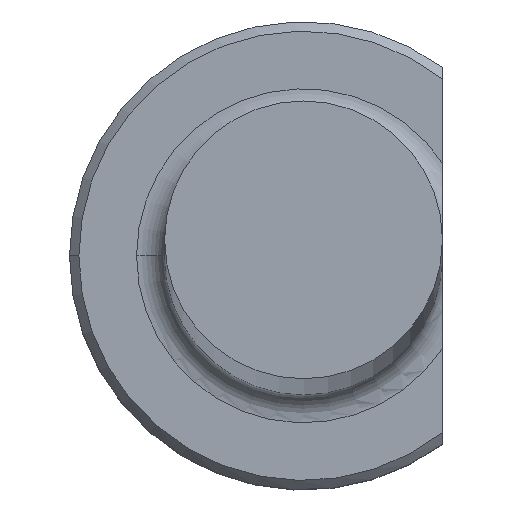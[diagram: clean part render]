
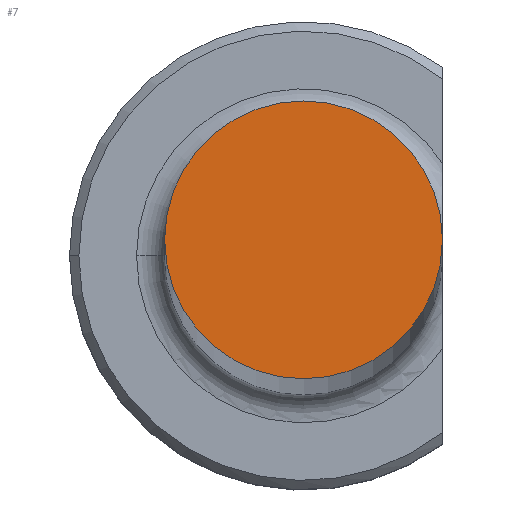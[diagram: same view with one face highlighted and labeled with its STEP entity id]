
A CAD part, top view. The second image highlights one B-rep face of the part: STEP entity #7.
In plain terms, the highlighted planar face has unit normal (0, 0, 1).
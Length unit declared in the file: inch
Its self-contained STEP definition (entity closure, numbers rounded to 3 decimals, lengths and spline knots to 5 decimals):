
#7 = ADVANCED_FACE ( 'NONE', ( #45 ), #438, .T. ) ;
#11 = EDGE_LOOP ( 'NONE', ( #25, #162 ) ) ;
#25 = ORIENTED_EDGE ( 'NONE', *, *, #329, .F. ) ;
#45 = FACE_OUTER_BOUND ( 'NONE', #11, .T. ) ;
#66 = DIRECTION ( 'NONE',  ( 0., 0., -1. ) ) ;
#134 = CIRCLE ( 'NONE', #341, 0.1484 ) ;
#162 = ORIENTED_EDGE ( 'NONE', *, *, #344, .F. ) ;
#171 = CARTESIAN_POINT ( 'NONE',  ( -0.1484, 0., 10. ) ) ;
#184 = CARTESIAN_POINT ( 'NONE',  ( 0., 0.1484, 10. ) ) ;
#189 = DIRECTION ( 'NONE',  ( 1., 0., 0. ) ) ;
#202 = CARTESIAN_POINT ( 'NONE',  ( 0., 0., 10. ) ) ;
#211 = DIRECTION ( 'NONE',  ( -1., 0., 0. ) ) ;
#222 = DIRECTION ( 'NONE',  ( 0., 0., 1. ) ) ;
#236 = CIRCLE ( 'NONE', #274, 0.1484 ) ;
#270 = VERTEX_POINT ( 'NONE', #171 ) ;
#274 = AXIS2_PLACEMENT_3D ( 'NONE', #202, #391, #346 ) ;
#329 = EDGE_CURVE ( 'NONE', #270, #394, #236, .T. ) ;
#341 = AXIS2_PLACEMENT_3D ( 'NONE', #388, #66, #211 ) ;
#344 = EDGE_CURVE ( 'NONE', #394, #270, #134, .T. ) ;
#346 = DIRECTION ( 'NONE',  ( -1., 0., 0. ) ) ;
#388 = CARTESIAN_POINT ( 'NONE',  ( 0., 0., 10. ) ) ;
#391 = DIRECTION ( 'NONE',  ( 0., 0., -1. ) ) ;
#394 = VERTEX_POINT ( 'NONE', #427 ) ;
#427 = CARTESIAN_POINT ( 'NONE',  ( 0.1484, 0., 10. ) ) ;
#438 = PLANE ( 'NONE',  #450 ) ;
#450 = AXIS2_PLACEMENT_3D ( 'NONE', #184, #222, #189 ) ;
